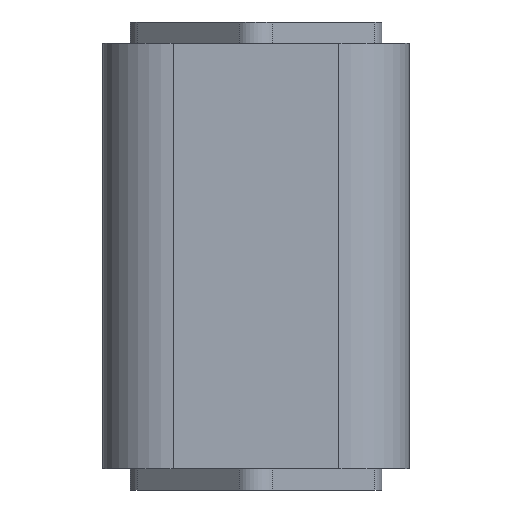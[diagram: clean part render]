
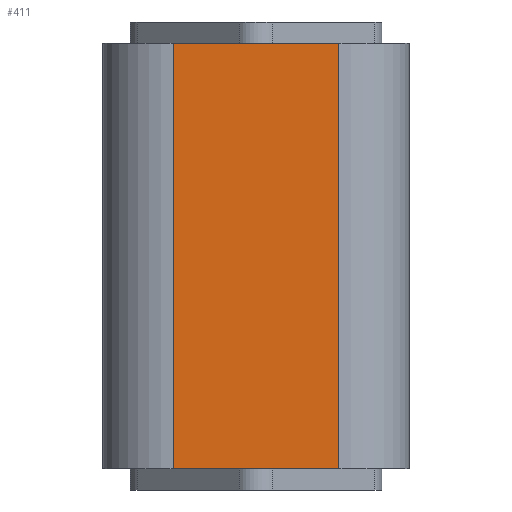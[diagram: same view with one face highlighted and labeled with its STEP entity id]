
A CAD part, front view. The second image highlights one B-rep face of the part: STEP entity #411.
In plain terms, the highlighted planar face has unit normal (0, -1, 0).
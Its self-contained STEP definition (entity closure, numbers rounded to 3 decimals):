
#346=CARTESIAN_POINT('',(19.5,-36.,100.0));
#347=VERTEX_POINT('',#346);
#355=CARTESIAN_POINT('',(19.5,-36.,0.0));
#356=VERTEX_POINT('',#355);
#357=CARTESIAN_POINT('',(19.5,-36.,0.0));
#358=DIRECTION('',(0.0,0.0,1.0));
#359=VECTOR('',#358,100.0);
#360=LINE('',#357,#359);
#361=EDGE_CURVE('',#356,#347,#360,.T.);
#381=CARTESIAN_POINT('',(19.5,-36.,0.0));
#382=DIRECTION('',(0.0,-1.0,0.0));
#383=DIRECTION('',(0.0,0.0,-1.0));
#384=AXIS2_PLACEMENT_3D('',#381,#382,#383);
#385=PLANE('',#384);
#386=CARTESIAN_POINT('',(-19.5,-36.,100.0));
#387=VERTEX_POINT('',#386);
#388=CARTESIAN_POINT('',(19.5,-36.,100.0));
#389=DIRECTION('',(-1.0,0.0,0.0));
#390=VECTOR('',#389,39.);
#391=LINE('',#388,#390);
#392=EDGE_CURVE('',#347,#387,#391,.T.);
#393=ORIENTED_EDGE('',*,*,#392,.T.);
#394=CARTESIAN_POINT('',(-19.5,-36.,0.0));
#395=VERTEX_POINT('',#394);
#396=CARTESIAN_POINT('',(-19.5,-36.,0.0));
#397=DIRECTION('',(0.0,0.0,1.0));
#398=VECTOR('',#397,100.0);
#399=LINE('',#396,#398);
#400=EDGE_CURVE('',#395,#387,#399,.T.);
#401=ORIENTED_EDGE('',*,*,#400,.F.);
#402=CARTESIAN_POINT('',(-19.5,-36.,0.0));
#403=DIRECTION('',(1.0,0.0,0.0));
#404=VECTOR('',#403,39.);
#405=LINE('',#402,#404);
#406=EDGE_CURVE('',#395,#356,#405,.T.);
#407=ORIENTED_EDGE('',*,*,#406,.T.);
#408=ORIENTED_EDGE('',*,*,#361,.T.);
#409=EDGE_LOOP('',(#393,#401,#407,#408));
#410=FACE_OUTER_BOUND('',#409,.T.);
#411=ADVANCED_FACE('',(#410),#385,.T.);
